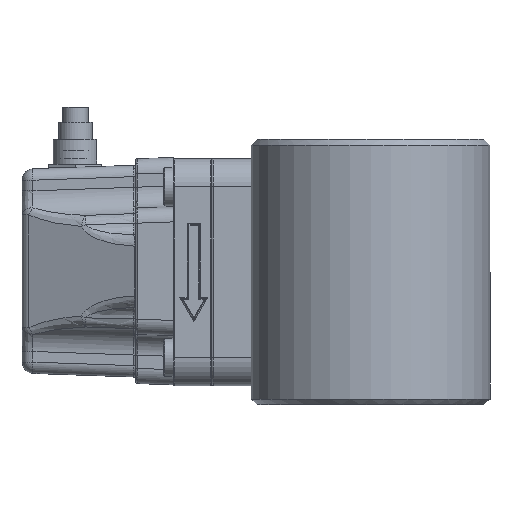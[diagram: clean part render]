
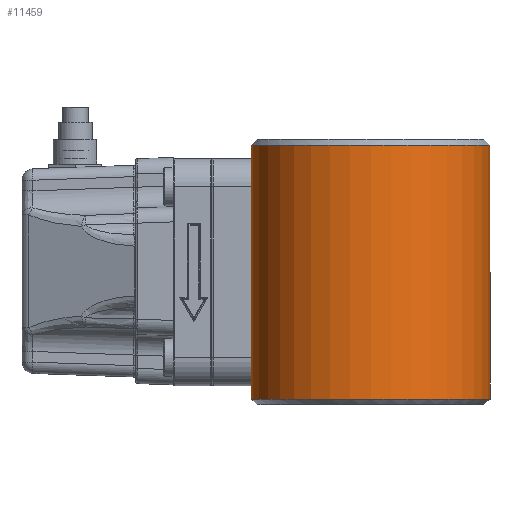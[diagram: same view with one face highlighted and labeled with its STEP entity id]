
A CAD part, left-side view. The second image highlights one B-rep face of the part: STEP entity #11459.
In plain terms, the highlighted cylindrical face has radius 31.5 mm (diameter 63 mm), a partial arc.
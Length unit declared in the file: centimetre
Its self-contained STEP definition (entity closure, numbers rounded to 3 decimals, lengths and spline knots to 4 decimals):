
#2185=VECTOR('',#15602,1.);
#2187=VECTOR('',#15604,1.);
#2719=LINE('',#45047,#2185);
#2721=LINE('',#45059,#2187);
#3810=VERTEX_POINT('',#45034);
#3811=VERTEX_POINT('',#45036);
#3815=VERTEX_POINT('',#45048);
#3818=VERTEX_POINT('',#45058);
#4473=CIRCLE('',#12729,3.15);
#4477=CIRCLE('',#12735,3.15);
#5957=EDGE_CURVE('',#3810,#3811,#4473,.T.);
#5962=EDGE_CURVE('',#3811,#3815,#2719,.T.);
#5966=EDGE_CURVE('',#3810,#3818,#2721,.T.);
#5968=EDGE_CURVE('',#3815,#3818,#4477,.T.);
#8934=ORIENTED_EDGE('',*,*,#5957,.F.);
#8935=ORIENTED_EDGE('',*,*,#5966,.T.);
#8936=ORIENTED_EDGE('',*,*,#5968,.F.);
#8937=ORIENTED_EDGE('',*,*,#5962,.F.);
#9834=EDGE_LOOP('',(#8934,#8935,#8936,#8937));
#10726=FACE_BOUND('',#9834,.T.);
#11459=ADVANCED_FACE('',(#10726),#45339,.T.);
#12729=AXIS2_PLACEMENT_3D('',#45035,#15593,#15594);
#12734=AXIS2_PLACEMENT_3D('',#45061,#15606,#15607);
#12735=AXIS2_PLACEMENT_3D('',#45062,#15608,#15609);
#15593=DIRECTION('',(0.,0.,1.));
#15594=DIRECTION('',(-3.15,0.,0.));
#15602=DIRECTION('',(0.,0.,-1.));
#15604=DIRECTION('',(0.,0.,-1.));
#15606=DIRECTION('',(0.,0.,-1.));
#15607=DIRECTION('',(-3.15,0.,0.));
#15608=DIRECTION('',(0.,0.,-1.));
#15609=DIRECTION('',(-3.15,0.,0.));
#45034=CARTESIAN_POINT('',(-5.519,-5.1468,5.5968));
#45035=CARTESIAN_POINT('',(-8.219,-6.7693,5.5968));
#45036=CARTESIAN_POINT('',(-5.519,-8.3918,5.5968));
#45047=CARTESIAN_POINT('',(-5.519,-8.3918,5.7468));
#45048=CARTESIAN_POINT('',(-5.519,-8.3918,-1.1032));
#45058=CARTESIAN_POINT('',(-5.519,-5.1468,-1.1032));
#45059=CARTESIAN_POINT('',(-5.519,-5.1468,5.7468));
#45061=CARTESIAN_POINT('',(-8.219,-6.7693,5.7468));
#45062=CARTESIAN_POINT('',(-8.219,-6.7693,-1.1032));
#45339=CYLINDRICAL_SURFACE('',#12734,3.15);
